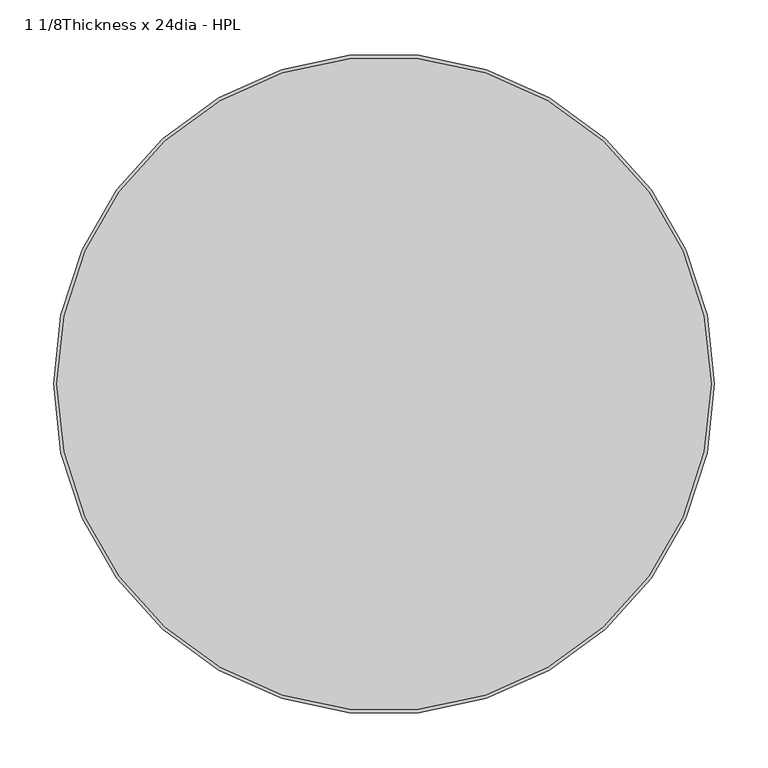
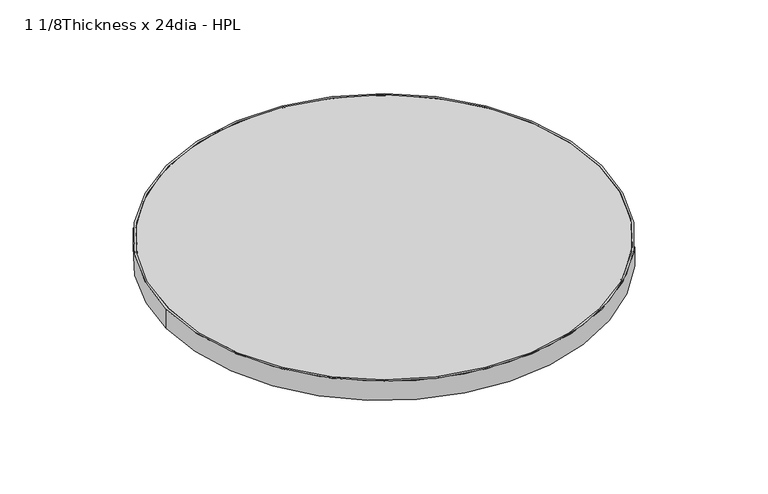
"""IFC4 building model written with IfcOpenShell, lengths in millimetres: furniture geometry, Steelcase - Groupwork - Table - Top - Round : 1 1/8Thickness x 24dia - HPL."""

import ifcopenshell
import ifcopenshell.guid

model = None  # the IFC model being written
_history = None  # IfcOwnerHistory: only IFC2X3 demands one
_inside = {}  # id of a spatial element -> (the spatial element, [elements in it])
_under = {}  # id of a project, library or spatial element -> (it, [spatial elements below it])
_declared = {}  # id of a project -> (the project, [libraries it declares])
_typed = {}  # id of a type object -> (the type object, [elements of that type])
_made_of = {}  # id of a material, layer set ... -> (it, [elements and type objects made of it])


def new_model(schema):
    """Start an empty IFC model of exactly this schema.

    Asked for "IFC4X3", IfcOpenShell would pick the latest addendum, in which some entities
    have other attributes; the version numbers below select the first issue.
    IFC2X3 requires an IfcOwnerHistory on every rooted entity: one is made here for all.
    """
    global model, _history
    if schema == "IFC4X3":
        model = ifcopenshell.file(schema_version=(4, 3, 0, 0))
    else:
        model = ifcopenshell.file(schema=schema)
    _inside.clear()
    _under.clear()
    _declared.clear()
    _typed.clear()
    _made_of.clear()
    _history = None
    if model.schema == "IFC2X3":
        org = make("IfcOrganization", Name="unknown")
        user = make(
            "IfcPersonAndOrganization",
            ThePerson=make("IfcPerson", FamilyName="unknown"),
            TheOrganization=org,
        )
        app = make(
            "IfcApplication",
            ApplicationDeveloper=org,
            Version="unknown",
            ApplicationFullName="unknown",
            ApplicationIdentifier="unknown",
        )
        _history = make(
            "IfcOwnerHistory",
            OwningUser=user,
            OwningApplication=app,
            ChangeAction="ADDED",
            CreationDate=0,
        )
    return model


def make(cls, **values):
    """One entity of the class cls with the attributes given. An attribute that is None is left unset."""
    return model.create_entity(
        cls, **{name: value for name, value in values.items() if value is not None}
    )


def rooted(cls, **values):
    """An entity with a GlobalId (a new one), such as an element, a storey or a relation."""
    return make(cls, GlobalId=ifcopenshell.guid.new(), OwnerHistory=_history, **values)


def si_unit(unit_type, name, prefix=None):
    """IfcSIUnit, for example si_unit("LENGTHUNIT", "METRE", prefix="MILLI")."""
    return make("IfcSIUnit", UnitType=unit_type, Prefix=prefix, Name=name)


def assignment(units):
    """IfcUnitAssignment: the units of a project."""
    return None if units is None else make("IfcUnitAssignment", Units=units)


def point(xyz):
    """IfcCartesianPoint."""
    return None if xyz is None else make("IfcCartesianPoint", Coordinates=xyz)


def direction(xyz):
    """IfcDirection."""
    return None if xyz is None else make("IfcDirection", DirectionRatios=xyz)


def frame(location, z_axis=None, x_axis=None):
    """IfcAxis2Placement3D, a coordinate frame: its origin and axes. An axis left out is left unset."""
    return make(
        "IfcAxis2Placement3D",
        Location=point(location),
        Axis=direction(z_axis),
        RefDirection=direction(x_axis),
    )


def frame_2d(location, x_axis=None):
    """IfcAxis2Placement2D, a coordinate frame in the plane: its origin and x axis."""
    return make(
        "IfcAxis2Placement2D", Location=point(location), RefDirection=direction(x_axis)
    )


def origin():
    """The frame at (0, 0, 0) with its axes left unset."""
    return frame((0.0, 0.0, 0.0))


def origin_2d():
    """The frame at (0, 0) in the plane with its x axis left unset."""
    return frame_2d((0.0, 0.0))


def place(relative_to, where):
    """IfcLocalPlacement: puts the frame where relative to a parent placement (None: the world)."""
    return make(
        "IfcLocalPlacement", PlacementRelTo=relative_to, RelativePlacement=where
    )


def context(
    kind, dimensions, precision=None, world=None, true_north=None, identifier=None
):
    """IfcGeometricRepresentationContext, for example the 3D "Model" context."""
    return make(
        "IfcGeometricRepresentationContext",
        ContextIdentifier=identifier,
        ContextType=kind,
        CoordinateSpaceDimension=dimensions,
        Precision=precision,
        WorldCoordinateSystem=world,
        TrueNorth=true_north,
    )


def project(units=None, contexts=None):
    """IfcProject with its units and contexts."""
    return rooted(
        "IfcProject",
        Name="project",
        RepresentationContexts=contexts,
        UnitsInContext=assignment(units),
    )


def spatial(cls, under=None, at=None, **own):
    """A site, building, storey or space (cls), placed at a placement, below another one or the project."""
    s = rooted(cls, ObjectPlacement=at, **own)
    if under is not None:
        _under.setdefault(under.id(), (under, []))[1].append(s)
    return s


def circle_curve(where, radius):
    """IfcCircle in the frame where."""
    return make("IfcCircle", Position=where, Radius=radius)


def trimmed(basis, trim1, trim2, sense, master):
    """IfcTrimmedCurve: the piece of a basis curve between two trims."""
    return make(
        "IfcTrimmedCurve",
        BasisCurve=basis,
        Trim1=trim1,
        Trim2=trim2,
        SenseAgreement=sense,
        MasterRepresentation=master,
    )


def segment(curve, same_sense, transition):
    """IfcCompositeCurveSegment."""
    return make(
        "IfcCompositeCurveSegment",
        Transition=transition,
        SameSense=same_sense,
        ParentCurve=curve,
    )


def composite_curve(segments, self_intersect=None):
    """IfcCompositeCurve: segments joined end to end."""
    return make("IfcCompositeCurve", Segments=segments, SelfIntersect=self_intersect)


def outline(outer, holes=None, kind="AREA"):
    """IfcArbitraryClosedProfileDef: a profile drawn as a closed curve; with holes, ...WithVoids."""
    if holes is None:
        return make("IfcArbitraryClosedProfileDef", ProfileType=kind, OuterCurve=outer)
    return make(
        "IfcArbitraryProfileDefWithVoids",
        ProfileType=kind,
        OuterCurve=outer,
        InnerCurves=holes,
    )


def extrude(swept, where, along, depth):
    """IfcExtrudedAreaSolid: the profile swept, set in the frame where, extruded along a direction by depth."""
    return make(
        "IfcExtrudedAreaSolid",
        SweptArea=swept,
        Position=where,
        ExtrudedDirection=direction(along),
        Depth=depth,
    )


def shape(context_of_items, identifier, shape_type, items):
    """IfcShapeRepresentation: the items that make up one representation, for example the "Body"."""
    return make(
        "IfcShapeRepresentation",
        ContextOfItems=context_of_items,
        RepresentationIdentifier=identifier,
        RepresentationType=shape_type,
        Items=items,
    )


def source(mapping_origin, context_of_items, identifier, shape_type, items):
    """IfcRepresentationMap: a shape defined once, which mapped items show again and again."""
    return make(
        "IfcRepresentationMap",
        MappingOrigin=mapping_origin,
        MappedRepresentation=shape(context_of_items, identifier, shape_type, items),
    )


def transform(
    local_origin,
    x_axis=None,
    y_axis=None,
    z_axis=None,
    scale=None,
    scale2=None,
    scale3=None,
    uniform=True,
):
    """IfcCartesianTransformationOperator3D, or its non-uniform kind. x_axis, y_axis, z_axis: its Axis1, 2, 3."""
    if uniform:
        return make(
            "IfcCartesianTransformationOperator3D",
            Axis1=direction(x_axis),
            Axis2=direction(y_axis),
            LocalOrigin=point(local_origin),
            Scale=scale,
            Axis3=direction(z_axis),
        )
    return make(
        "IfcCartesianTransformationOperator3DnonUniform",
        Axis1=direction(x_axis),
        Axis2=direction(y_axis),
        LocalOrigin=point(local_origin),
        Scale=scale,
        Axis3=direction(z_axis),
        Scale2=scale2,
        Scale3=scale3,
    )


def mapped(mapping_source, mapping_target):
    """IfcMappedItem: shows the shape of a source again, moved by a transform."""
    return make(
        "IfcMappedItem", MappingSource=mapping_source, MappingTarget=mapping_target
    )


def made_of(thing, what):
    """Note that an element or type object is made of a material, layer set ...; save() writes the relation."""
    if what is not None:
        _made_of.setdefault(what.id(), (what, []))[1].append(thing)
    return thing


def element(
    cls,
    number,
    at=None,
    inside=None,
    cuts=None,
    type_object=None,
    material=None,
    context=None,
    identifier="Body",
    shape_type=None,
    held_by="IfcProductDefinitionShape",
    body=None,
    shapes=None,
    **own,
):
    """One element of the class cls, such as IfcWall. Its Tag is "e" and its number.

    at: its placement. inside: the storey or other place that contains it. cuts: it is an
    opening in that element (IfcRelVoidsElement). A single representation is given by context,
    identifier, shape_type and body (its items); several are given by shapes. held_by: the class
    of the entity that holds the representations. save() writes the other relations.
    """
    e = rooted(cls, Tag="e%d" % number, ObjectPlacement=at, **own)
    if body is not None:
        shapes = [shape(context, identifier, shape_type, body)]
    if shapes is not None:
        e.Representation = make(held_by, Representations=shapes)
    if inside is not None:
        _inside.setdefault(inside.id(), (inside, []))[1].append(e)
    if cuts is not None:
        rooted(
            "IfcRelVoidsElement", RelatingBuildingElement=cuts, RelatedOpeningElement=e
        )
    if type_object is not None:
        _typed.setdefault(type_object.id(), (type_object, []))[1].append(e)
    return made_of(e, material)


def aggregate(whole, parts):
    """IfcRelAggregates: a whole, such as a stair, and the parts it consists of."""
    return rooted("IfcRelAggregates", RelatingObject=whole, RelatedObjects=parts)


def save(model, path):
    """Write the relations noted so far, then the file.

    IfcRelAggregates (storeys below a building ...), IfcRelContainedInSpatialStructure (elements
    in a storey), IfcRelDefinesByType, IfcRelAssociatesMaterial and IfcRelDeclares: one each for
    every whole, place, type object, material and project.
    """
    for whole, parts in _under.values():
        aggregate(whole, parts)
    for where, things in _inside.values():
        rooted(
            "IfcRelContainedInSpatialStructure",
            RelatedElements=things,
            RelatingStructure=where,
        )
    for kind, things in _typed.values():
        rooted("IfcRelDefinesByType", RelatedObjects=things, RelatingType=kind)
    for what, things in _made_of.values():
        rooted("IfcRelAssociatesMaterial", RelatedObjects=things, RelatingMaterial=what)
    for by, libraries in _declared.values():
        rooted("IfcRelDeclares", RelatingContext=by, RelatedDefinitions=libraries)
    model.write(path)


def furniture_1_1_8thickness_x_24dia_hpl_15a3ba9e(model_context):
    return source(origin(), model_context, "Body", "SweptSolid", [
        extrude(outline(composite_curve([segment(trimmed(circle_curve(origin_2d(), 307.848), [point((-307.848, 0.0))], [point((307.848, 0.0))], False, "CARTESIAN"), True, "CONTINUOUS"), segment(trimmed(circle_curve(origin_2d(), 307.848), [point((307.848, 0.0))], [point((-307.848, 0.0))], False, "CARTESIAN"), True, "CONTINUOUS")], self_intersect=False), holes=[composite_curve([segment(trimmed(circle_curve(origin_2d(), 304.8), [point((304.8, 0.0))], [point((-304.8, 0.0))], True, "CARTESIAN"), True, "CONTINUOUS"), segment(trimmed(circle_curve(origin_2d(), 304.8), [point((-304.8, 0.0))], [point((304.8, 0.0))], True, "CARTESIAN"), True, "CONTINUOUS")], self_intersect=False)]), frame((0.0, 0.0, 695.579), z_axis=(0.0, 0.0, 1.0), x_axis=(1.0, 0.0, 0.0)), (0.0, 0.0, 1.0), 28.702),
        extrude(outline(composite_curve([segment(trimmed(circle_curve(origin_2d(), 304.8), [point((-304.8, 0.0))], [point((304.8, 0.0))], False, "CARTESIAN"), True, "CONTINUOUS"), segment(trimmed(circle_curve(origin_2d(), 304.8), [point((304.8, 0.0))], [point((-304.8, 0.0))], False, "CARTESIAN"), True, "CONTINUOUS")], self_intersect=False)), frame((0.0, 0.0, 695.579), z_axis=(0.0, 0.0, 1.0), x_axis=(1.0, 0.0, 0.0)), (0.0, 0.0, 1.0), 28.702),
    ])


if __name__ == "__main__":
    model = new_model("IFC4")
    model_context = context("Model", 3, world=origin())
    ifc_project = project(units=[si_unit("LENGTHUNIT", "METRE", prefix="MILLI")], contexts=[model_context])
    site = spatial("IfcSite", under=ifc_project)
    building = spatial("IfcBuilding", under=site)
    placement = place(None, origin())
    furniture_1_1_8thickness_x_24dia_hpl_shape = furniture_1_1_8thickness_x_24dia_hpl_15a3ba9e(model_context)
    element("IfcFurniture", 1, ObjectType="Steelcase - Groupwork - Table - Top - Round : 1 1/8Thickness x 24dia - HPL", at=placement, inside=building, context=model_context, shape_type="MappedRepresentation", body=[
        mapped(furniture_1_1_8thickness_x_24dia_hpl_shape, transform((0.0, 0.0, 0.0), x_axis=(1.0, 0.0, 0.0), y_axis=(0.0, 1.0, 0.0), z_axis=(0.0, 0.0, 1.0))),
    ])
    save(model, "model.ifc")
